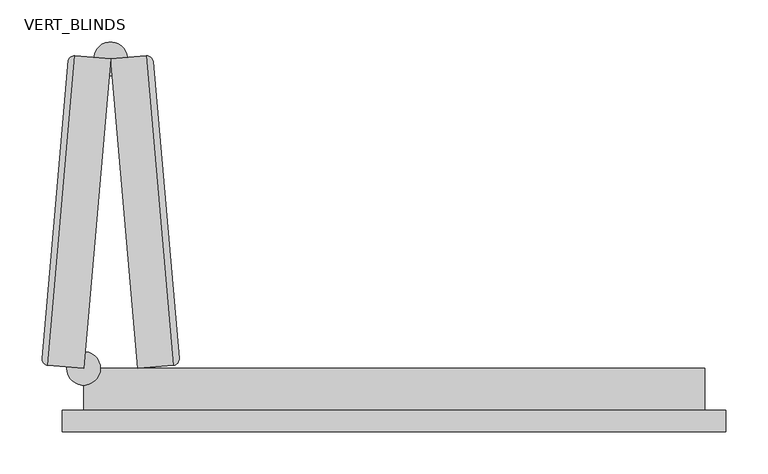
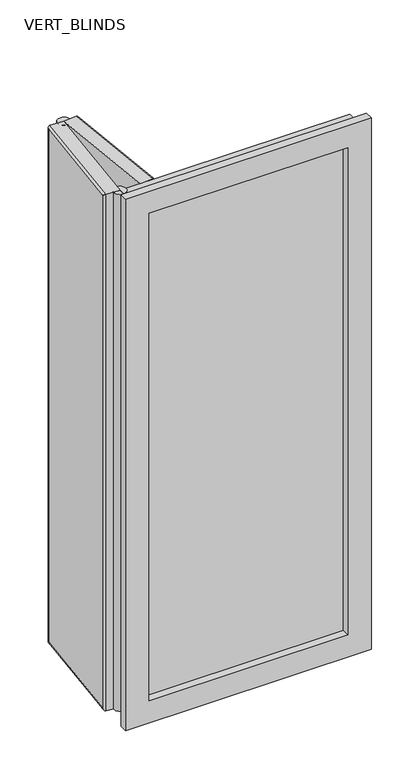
"""IFC4 building model written with IfcOpenShell, lengths in millimetres: plate geometry, CURTAIN PANEL VODA STYLE BIFOLDING : VERT_BLINDS."""

import ifcopenshell
import ifcopenshell.guid

model = None  # the IFC model being written
_history = None  # IfcOwnerHistory: only IFC2X3 demands one
_inside = {}  # id of a spatial element -> (the spatial element, [elements in it])
_under = {}  # id of a project, library or spatial element -> (it, [spatial elements below it])
_declared = {}  # id of a project -> (the project, [libraries it declares])
_typed = {}  # id of a type object -> (the type object, [elements of that type])
_made_of = {}  # id of a material, layer set ... -> (it, [elements and type objects made of it])


def new_model(schema):
    """Start an empty IFC model of exactly this schema.

    Asked for "IFC4X3", IfcOpenShell would pick the latest addendum, in which some entities
    have other attributes; the version numbers below select the first issue.
    IFC2X3 requires an IfcOwnerHistory on every rooted entity: one is made here for all.
    """
    global model, _history
    if schema == "IFC4X3":
        model = ifcopenshell.file(schema_version=(4, 3, 0, 0))
    else:
        model = ifcopenshell.file(schema=schema)
    _inside.clear()
    _under.clear()
    _declared.clear()
    _typed.clear()
    _made_of.clear()
    _history = None
    if model.schema == "IFC2X3":
        org = make("IfcOrganization", Name="unknown")
        user = make(
            "IfcPersonAndOrganization",
            ThePerson=make("IfcPerson", FamilyName="unknown"),
            TheOrganization=org,
        )
        app = make(
            "IfcApplication",
            ApplicationDeveloper=org,
            Version="unknown",
            ApplicationFullName="unknown",
            ApplicationIdentifier="unknown",
        )
        _history = make(
            "IfcOwnerHistory",
            OwningUser=user,
            OwningApplication=app,
            ChangeAction="ADDED",
            CreationDate=0,
        )
    return model


def make(cls, **values):
    """One entity of the class cls with the attributes given. An attribute that is None is left unset."""
    return model.create_entity(
        cls, **{name: value for name, value in values.items() if value is not None}
    )


def rooted(cls, **values):
    """An entity with a GlobalId (a new one), such as an element, a storey or a relation."""
    return make(cls, GlobalId=ifcopenshell.guid.new(), OwnerHistory=_history, **values)


def si_unit(unit_type, name, prefix=None):
    """IfcSIUnit, for example si_unit("LENGTHUNIT", "METRE", prefix="MILLI")."""
    return make("IfcSIUnit", UnitType=unit_type, Prefix=prefix, Name=name)


def assignment(units):
    """IfcUnitAssignment: the units of a project."""
    return None if units is None else make("IfcUnitAssignment", Units=units)


def point(xyz):
    """IfcCartesianPoint."""
    return None if xyz is None else make("IfcCartesianPoint", Coordinates=xyz)


def direction(xyz):
    """IfcDirection."""
    return None if xyz is None else make("IfcDirection", DirectionRatios=xyz)


def frame(location, z_axis=None, x_axis=None):
    """IfcAxis2Placement3D, a coordinate frame: its origin and axes. An axis left out is left unset."""
    return make(
        "IfcAxis2Placement3D",
        Location=point(location),
        Axis=direction(z_axis),
        RefDirection=direction(x_axis),
    )


def frame_2d(location, x_axis=None):
    """IfcAxis2Placement2D, a coordinate frame in the plane: its origin and x axis."""
    return make(
        "IfcAxis2Placement2D", Location=point(location), RefDirection=direction(x_axis)
    )


def origin():
    """The frame at (0, 0, 0) with its axes left unset."""
    return frame((0.0, 0.0, 0.0))


def place(relative_to, where):
    """IfcLocalPlacement: puts the frame where relative to a parent placement (None: the world)."""
    return make(
        "IfcLocalPlacement", PlacementRelTo=relative_to, RelativePlacement=where
    )


def context(
    kind, dimensions, precision=None, world=None, true_north=None, identifier=None
):
    """IfcGeometricRepresentationContext, for example the 3D "Model" context."""
    return make(
        "IfcGeometricRepresentationContext",
        ContextIdentifier=identifier,
        ContextType=kind,
        CoordinateSpaceDimension=dimensions,
        Precision=precision,
        WorldCoordinateSystem=world,
        TrueNorth=true_north,
    )


def project(units=None, contexts=None):
    """IfcProject with its units and contexts."""
    return rooted(
        "IfcProject",
        Name="project",
        RepresentationContexts=contexts,
        UnitsInContext=assignment(units),
    )


def spatial(cls, under=None, at=None, **own):
    """A site, building, storey or space (cls), placed at a placement, below another one or the project."""
    s = rooted(cls, ObjectPlacement=at, **own)
    if under is not None:
        _under.setdefault(under.id(), (under, []))[1].append(s)
    return s


def polyline(points):
    """IfcPolyline through the points."""
    return make("IfcPolyline", Points=[point(p) for p in points])


def circle_curve(where, radius):
    """IfcCircle in the frame where."""
    return make("IfcCircle", Position=where, Radius=radius)


def ellipse_curve(where, semi_axis1, semi_axis2):
    """IfcEllipse in the frame where."""
    return make(
        "IfcEllipse", Position=where, SemiAxis1=semi_axis1, SemiAxis2=semi_axis2
    )


def trimmed(basis, trim1, trim2, sense, master):
    """IfcTrimmedCurve: the piece of a basis curve between two trims."""
    return make(
        "IfcTrimmedCurve",
        BasisCurve=basis,
        Trim1=trim1,
        Trim2=trim2,
        SenseAgreement=sense,
        MasterRepresentation=master,
    )


def segment(curve, same_sense, transition):
    """IfcCompositeCurveSegment."""
    return make(
        "IfcCompositeCurveSegment",
        Transition=transition,
        SameSense=same_sense,
        ParentCurve=curve,
    )


def composite_curve(segments, self_intersect=None):
    """IfcCompositeCurve: segments joined end to end."""
    return make("IfcCompositeCurve", Segments=segments, SelfIntersect=self_intersect)


def outline(outer, holes=None, kind="AREA"):
    """IfcArbitraryClosedProfileDef: a profile drawn as a closed curve; with holes, ...WithVoids."""
    if holes is None:
        return make("IfcArbitraryClosedProfileDef", ProfileType=kind, OuterCurve=outer)
    return make(
        "IfcArbitraryProfileDefWithVoids",
        ProfileType=kind,
        OuterCurve=outer,
        InnerCurves=holes,
    )


def extrude(swept, where, along, depth):
    """IfcExtrudedAreaSolid: the profile swept, set in the frame where, extruded along a direction by depth."""
    return make(
        "IfcExtrudedAreaSolid",
        SweptArea=swept,
        Position=where,
        ExtrudedDirection=direction(along),
        Depth=depth,
    )


def faces_of(points, faces, orient=None, outer=None):
    """IfcFace entities. A face is a list of loops; a loop is a list of indices into points, from 0.

    orient and outer hold one flag for each loop. By default every Orientation is true, the
    first loop of a face is its IfcFaceOuterBound and the others are IfcFaceBound.
    """
    made = []
    for i, loops in enumerate(faces):
        bounds = []
        for j, loop in enumerate(loops):
            is_outer = j == 0 if outer is None else outer[i][j]
            bounds.append(
                make(
                    "IfcFaceOuterBound" if is_outer else "IfcFaceBound",
                    Bound=make("IfcPolyLoop", Polygon=[points[k] for k in loop]),
                    Orientation=True if orient is None else orient[i][j],
                )
            )
        made.append(make("IfcFace", Bounds=bounds))
    return made


def faceted_brep(points, faces, orient=None, outer=None, voids=None):
    """IfcFacetedBrep: a solid bounded by flat faces; with voids (closed shells), ...WithVoids."""
    shared = [point(p) for p in points]
    hull = make("IfcClosedShell", CfsFaces=faces_of(shared, faces, orient, outer))
    if voids is None:
        return make("IfcFacetedBrep", Outer=hull)
    return make(
        "IfcFacetedBrepWithVoids",
        Outer=hull,
        Voids=[
            make(cls, CfsFaces=faces_of(shared, fs, o, b)) for cls, fs, o, b in voids
        ],
    )


def shape(context_of_items, identifier, shape_type, items):
    """IfcShapeRepresentation: the items that make up one representation, for example the "Body"."""
    return make(
        "IfcShapeRepresentation",
        ContextOfItems=context_of_items,
        RepresentationIdentifier=identifier,
        RepresentationType=shape_type,
        Items=items,
    )


def source(mapping_origin, context_of_items, identifier, shape_type, items):
    """IfcRepresentationMap: a shape defined once, which mapped items show again and again."""
    return make(
        "IfcRepresentationMap",
        MappingOrigin=mapping_origin,
        MappedRepresentation=shape(context_of_items, identifier, shape_type, items),
    )


def transform(
    local_origin,
    x_axis=None,
    y_axis=None,
    z_axis=None,
    scale=None,
    scale2=None,
    scale3=None,
    uniform=True,
):
    """IfcCartesianTransformationOperator3D, or its non-uniform kind. x_axis, y_axis, z_axis: its Axis1, 2, 3."""
    if uniform:
        return make(
            "IfcCartesianTransformationOperator3D",
            Axis1=direction(x_axis),
            Axis2=direction(y_axis),
            LocalOrigin=point(local_origin),
            Scale=scale,
            Axis3=direction(z_axis),
        )
    return make(
        "IfcCartesianTransformationOperator3DnonUniform",
        Axis1=direction(x_axis),
        Axis2=direction(y_axis),
        LocalOrigin=point(local_origin),
        Scale=scale,
        Axis3=direction(z_axis),
        Scale2=scale2,
        Scale3=scale3,
    )


def mapped(mapping_source, mapping_target):
    """IfcMappedItem: shows the shape of a source again, moved by a transform."""
    return make(
        "IfcMappedItem", MappingSource=mapping_source, MappingTarget=mapping_target
    )


def made_of(thing, what):
    """Note that an element or type object is made of a material, layer set ...; save() writes the relation."""
    if what is not None:
        _made_of.setdefault(what.id(), (what, []))[1].append(thing)
    return thing


def element(
    cls,
    number,
    at=None,
    inside=None,
    cuts=None,
    type_object=None,
    material=None,
    context=None,
    identifier="Body",
    shape_type=None,
    held_by="IfcProductDefinitionShape",
    body=None,
    shapes=None,
    **own,
):
    """One element of the class cls, such as IfcWall. Its Tag is "e" and its number.

    at: its placement. inside: the storey or other place that contains it. cuts: it is an
    opening in that element (IfcRelVoidsElement). A single representation is given by context,
    identifier, shape_type and body (its items); several are given by shapes. held_by: the class
    of the entity that holds the representations. save() writes the other relations.
    """
    e = rooted(cls, Tag="e%d" % number, ObjectPlacement=at, **own)
    if body is not None:
        shapes = [shape(context, identifier, shape_type, body)]
    if shapes is not None:
        e.Representation = make(held_by, Representations=shapes)
    if inside is not None:
        _inside.setdefault(inside.id(), (inside, []))[1].append(e)
    if cuts is not None:
        rooted(
            "IfcRelVoidsElement", RelatingBuildingElement=cuts, RelatedOpeningElement=e
        )
    if type_object is not None:
        _typed.setdefault(type_object.id(), (type_object, []))[1].append(e)
    return made_of(e, material)


def aggregate(whole, parts):
    """IfcRelAggregates: a whole, such as a stair, and the parts it consists of."""
    return rooted("IfcRelAggregates", RelatingObject=whole, RelatedObjects=parts)


def save(model, path):
    """Write the relations noted so far, then the file.

    IfcRelAggregates (storeys below a building ...), IfcRelContainedInSpatialStructure (elements
    in a storey), IfcRelDefinesByType, IfcRelAssociatesMaterial and IfcRelDeclares: one each for
    every whole, place, type object, material and project.
    """
    for whole, parts in _under.values():
        aggregate(whole, parts)
    for where, things in _inside.values():
        rooted(
            "IfcRelContainedInSpatialStructure",
            RelatedElements=things,
            RelatingStructure=where,
        )
    for kind, things in _typed.values():
        rooted("IfcRelDefinesByType", RelatedObjects=things, RelatingType=kind)
    for what, things in _made_of.values():
        rooted("IfcRelAssociatesMaterial", RelatedObjects=things, RelatingMaterial=what)
    for by, libraries in _declared.values():
        rooted("IfcRelDeclares", RelatingContext=by, RelatedDefinitions=libraries)
    model.write(path)


def plane_surface(at):
    """IfcPlane: the flat surface through the origin of the frame at, square to its z axis."""
    return make("IfcPlane", Position=at)


def cylinder_surface(at, radius):
    """IfcCylindricalSurface: all points at the distance radius from the z axis of the frame at."""
    return make("IfcCylindricalSurface", Position=at, Radius=radius)


def advanced_brep(points, edges, surfaces, faces):
    """IfcAdvancedBrep: a solid bounded by faces that lie on surfaces and meet in shared edges.

    An edge is (start, end): straight between two places in points (the first is 0);
    or (start, end, curve); or (start, end, curve, False) where it runs against its curve.
    A face is (place in surfaces, loops), or (place, loops, False) where it looks against
    its surface's normal. A loop lists edges by number (the first is 1), with a minus sign
    where the edge is run from its end to its start. The first loop is the outer one.
    """
    corners = [point(p) for p in points]
    vertices = [make("IfcVertexPoint", VertexGeometry=c) for c in corners]
    made = []
    for start, end, *more in edges:
        made.append(
            make(
                "IfcEdgeCurve",
                EdgeStart=vertices[start],
                EdgeEnd=vertices[end],
                EdgeGeometry=more[0] if more else make("IfcPolyline", Points=[corners[start], corners[end]]),
                SameSense=more[1] if len(more) > 1 else True,
            )
        )
    hull = []
    for where, loops, *sense in faces:
        bounds = []
        for j, loop in enumerate(loops):
            ring = [make("IfcOrientedEdge", EdgeElement=made[abs(k) - 1], Orientation=k > 0) for k in loop]
            bounds.append(
                make(
                    "IfcFaceOuterBound" if j == 0 else "IfcFaceBound",
                    Bound=make("IfcEdgeLoop", EdgeList=ring),
                    Orientation=True,
                )
            )
        hull.append(make("IfcAdvancedFace", Bounds=bounds, FaceSurface=surfaces[where], SameSense=sense[0] if sense else True))
    return make("IfcAdvancedBrep", Outer=make("IfcClosedShell", CfsFaces=hull))


def vert_blinds_d529f47b(model_context):
    return source(origin(), model_context, "Body", "SolidModel", [
        advanced_brep(
        [(-368.5861554, 50.0, 1775.0), (-336.4617552, 417.1835738, 1775.0), (-378.8000299, 420.8876928, 1775.0), (-410.92443, 53.7041191, 1775.0), (-336.4617552, 417.1835738, 25.0), (-368.5861554, 50.0, 25.0), (-410.92443, 53.7041191, 25.0), (-378.8000299, 420.8876928, 25.0), (-417.7422222, 61.8292474, 32.5), (-417.7422222, 61.8292474, 1767.5), (-386.9251582, 414.0699007, 1767.5), (-386.9251582, 414.0699007, 32.5)],
        [
            (0, 1),
            (1, 2),
            (2, 3),
            (3, 0),
            (4, 5),
            (5, 6),
            (6, 7),
            (7, 4),
            (1, 4),
            (7, 2),
            (8, 9),
            (9, 10),
            (10, 11),
            (11, 8),
            (5, 0),
            (3, 6),
            (8, 6, ellipse_curve(frame((-410.270762, 61.1755793, 32.5), z_axis=(-0.06162841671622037, -0.7044160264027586, 0.7071067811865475), x_axis=(-0.061628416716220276, -0.7044160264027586, -0.7071067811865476)), 10.6066017, 7.5)),
            (3, 9, ellipse_curve(frame((-410.270762, 61.1755793, 1767.5), z_axis=(-0.0616284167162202, -0.7044160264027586, -0.7071067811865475), x_axis=(0.061628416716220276, 0.7044160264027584, -0.7071067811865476)), 10.6066017, 7.5)),
            (11, 7, ellipse_curve(frame((-379.453698, 413.4162326, 32.5), z_axis=(-0.06162841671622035, -0.7044160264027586, -0.7071067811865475), x_axis=(0.0616284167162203, 0.7044160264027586, -0.7071067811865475)), 10.6066017, 7.5)),
            (10, 2, ellipse_curve(frame((-379.453698, 413.4162326, 1767.5), z_axis=(0.06162841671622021, 0.7044160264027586, -0.7071067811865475), x_axis=(0.06162841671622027, 0.7044160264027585, 0.7071067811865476)), 10.6066017, 7.5)),
        ],
        [
            plane_surface(frame((-386.2714901, 421.5413609, 1775.0), z_axis=(0.0, 0.0, 1.0), x_axis=(-0.9961946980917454, 0.0871557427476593, 0.0))),
            plane_surface(frame((-386.2714901, 421.5413609, 25.0), z_axis=(0.0, 0.0, -1.0), x_axis=(0.9961946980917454, -0.0871557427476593, 0.0))),
            plane_surface(frame((-336.4617552, 417.1835738, 1775.0), z_axis=(0.0871557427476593, 0.9961946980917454, 0.0), x_axis=(0.0, 0.0, -1.0))),
            plane_surface(frame((-386.2714901, 421.5413609, 1775.0), z_axis=(-0.9961946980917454, 0.0871557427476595, 0.0), x_axis=(0.0, 0.0, -1.0))),
            plane_surface(frame((-418.3958903, 54.3577871, 1775.0), z_axis=(-0.08715574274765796, -0.9961946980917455, 0.0), x_axis=(0.0, 0.0, -1.0))),
            plane_surface(frame((-368.5861554, 50.0, 1775.0), z_axis=(0.9961946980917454, -0.08715574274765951, 0.0), x_axis=(0.0, 0.0, -1.0))),
            cylinder_surface(frame((-410.270762, 61.1755793, 1775.0), z_axis=(0.0, 0.0, -1.0), x_axis=(0.9961946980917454, -0.08715574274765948, 0.0)), 7.5),
            cylinder_surface(frame((-410.92443, 53.7041191, 32.5), z_axis=(0.08715574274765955, 0.9961946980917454, 0.0), x_axis=(0.9961946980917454, -0.08715574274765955, 0.0)), 7.5),
            cylinder_surface(frame((-379.453698, 413.4162326, 25.0), z_axis=(0.0, 0.0, 1.0), x_axis=(0.9961946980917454, -0.0871557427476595, 0.0)), 7.5),
            cylinder_surface(frame((-378.8000299, 420.8876928, 1767.5), z_axis=(-0.08715574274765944, -0.9961946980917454, 0.0), x_axis=(0.9961946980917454, -0.08715574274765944, 0.0)), 7.5),
        ],
        [
            (0, [[1, 2, 3, 4]]),
            (1, [[5, 6, 7, 8]]),
            (2, [[9, -8, 10, -2]]),
            (3, [[11, 12, 13, 14]]),
            (4, [[15, -4, 16, -6]]),
            (5, [[-1, -15, -5, -9]]),
            (6, [[17, -16, 18, -11]]),
            (7, [[-17, -14, 19, -7]]),
            (8, [[-19, -13, 20, -10]]),
            (9, [[-18, -3, -20, -12]]),
        ],
    ),
        advanced_brep(
        [(-336.4617552, 417.1835738, 1775.0), (-304.3373551, 50.0, 1775.0), (-261.9990804, 53.7041191, 1775.0), (-294.1234806, 420.8876928, 1775.0), (-304.3373551, 50.0, 25.0), (-336.4617552, 417.1835738, 25.0), (-294.1234806, 420.8876928, 25.0), (-261.9990804, 53.7041191, 25.0), (-285.9983523, 414.0699007, 32.5), (-285.9983523, 414.0699007, 1767.5), (-255.1812883, 61.8292474, 1767.5), (-255.1812883, 61.8292474, 32.5)],
        [
            (0, 1),
            (1, 2),
            (2, 3),
            (3, 0),
            (4, 5),
            (5, 6),
            (6, 7),
            (7, 4),
            (1, 4),
            (7, 2),
            (8, 9),
            (9, 10),
            (10, 11),
            (11, 8),
            (5, 0),
            (3, 6),
            (8, 6, ellipse_curve(frame((-293.4698125, 413.4162326, 32.5), z_axis=(-0.0616284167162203, 0.7044160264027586, 0.7071067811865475), x_axis=(-0.061628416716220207, 0.7044160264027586, -0.7071067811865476)), 10.6066017, 7.5)),
            (3, 9, ellipse_curve(frame((-293.4698125, 413.4162326, 1767.5), z_axis=(-0.06162841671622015, 0.7044160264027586, -0.7071067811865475), x_axis=(0.06162841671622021, -0.7044160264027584, -0.7071067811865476)), 10.6066017, 7.5)),
            (11, 7, ellipse_curve(frame((-262.6527485, 61.1755793, 32.5), z_axis=(-0.06162841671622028, 0.7044160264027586, -0.7071067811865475), x_axis=(0.06162841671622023, -0.7044160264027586, -0.7071067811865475)), 10.6066017, 7.5)),
            (10, 2, ellipse_curve(frame((-262.6527485, 61.1755793, 1767.5), z_axis=(0.06162841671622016, -0.7044160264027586, -0.7071067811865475), x_axis=(0.061628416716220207, -0.7044160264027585, 0.7071067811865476)), 10.6066017, 7.5)),
        ],
        [
            plane_surface(frame((-254.5276202, 54.3577871, 1775.0), z_axis=(0.0, 0.0, 1.0), x_axis=(0.9961946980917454, 0.08715574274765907, 0.0))),
            plane_surface(frame((-254.5276202, 54.3577871, 25.0), z_axis=(0.0, 0.0, -1.0), x_axis=(-0.9961946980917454, -0.08715574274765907, 0.0))),
            plane_surface(frame((-304.3373551, 50.0, 1775.0), z_axis=(0.08715574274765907, -0.9961946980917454, 0.0), x_axis=(0.0, 0.0, -1.0))),
            plane_surface(frame((-254.5276202, 54.3577871, 1775.0), z_axis=(0.9961946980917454, 0.08715574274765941, 0.0), x_axis=(0.0, 0.0, -1.0))),
            plane_surface(frame((-286.6520203, 421.5413609, 1775.0), z_axis=(-0.08715574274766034, 0.9961946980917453, 0.0), x_axis=(0.0, 0.0, -1.0))),
            plane_surface(frame((-336.4617552, 417.1835738, 1775.0), z_axis=(-0.9961946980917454, -0.08715574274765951, 0.0), x_axis=(0.0, 0.0, -1.0))),
            cylinder_surface(frame((-293.4698125, 413.4162326, 1775.0), z_axis=(0.0, 0.0, -1.0), x_axis=(-0.9961946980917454, -0.08715574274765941, 0.0)), 7.5),
            cylinder_surface(frame((-294.1234806, 420.8876928, 32.5), z_axis=(0.08715574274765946, -0.9961946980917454, 0.0), x_axis=(-0.9961946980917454, -0.08715574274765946, 0.0)), 7.5),
            cylinder_surface(frame((-262.6527485, 61.1755793, 25.0), z_axis=(0.0, 0.0, 1.0), x_axis=(-0.9961946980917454, -0.0871557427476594, 0.0)), 7.5),
            cylinder_surface(frame((-261.9990804, 53.7041191, 1767.5), z_axis=(-0.08715574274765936, 0.9961946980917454, 0.0), x_axis=(-0.9961946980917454, -0.08715574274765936, 0.0)), 7.5),
        ],
        [
            (0, [[1, 2, 3, 4]]),
            (1, [[5, 6, 7, 8]]),
            (2, [[9, -8, 10, -2]]),
            (3, [[11, 12, 13, 14]]),
            (4, [[15, -4, 16, -6]]),
            (5, [[-1, -15, -5, -9]]),
            (6, [[17, -16, 18, -11]]),
            (7, [[-17, -14, 19, -7]]),
            (8, [[-19, -13, 20, -10]]),
            (9, [[-18, -3, -20, -12]]),
        ],
    ),
        extrude(outline(composite_curve([segment(trimmed(circle_curve(frame_2d((-368.5861554, 50.0)), 20.0), [point((-388.5861554, 50.0))], [point((-348.5861554, 50.0))], False, "CARTESIAN"), True, "CONTINUOUS"), segment(trimmed(circle_curve(frame_2d((-368.5861554, 50.0)), 20.0), [point((-348.5861554, 50.0))], [point((-388.5861554, 50.0))], False, "CARTESIAN"), True, "CONTINUOUS")], self_intersect=False)), frame((0.0, 0.0, 25.0), z_axis=(0.0, 0.0, 1.0), x_axis=(1.0, 0.0, 0.0)), (0.0, 0.0, 1.0), 1750.0),
        extrude(outline(composite_curve([segment(trimmed(circle_curve(frame_2d((-336.4617552, 417.1835738)), 20.0), [point((-338.2048701, 397.2596798))], [point((-334.7186404, 437.1074677))], False, "CARTESIAN"), True, "CONTINUOUS"), segment(trimmed(circle_curve(frame_2d((-336.4617552, 417.1835738)), 20.0), [point((-334.7186404, 437.1074677))], [point((-338.2048701, 397.2596798))], False, "CARTESIAN"), True, "CONTINUOUS")], self_intersect=False)), frame((0.0, 0.0, 25.0), z_axis=(0.0, 0.0, 1.0), x_axis=(1.0, 0.0, 0.0)), (0.0, 0.0, 1.0), 1750.0),
        extrude(outline(polyline([(-318.5861554, 24.0), (318.5861554, 24.0), (318.5861554, 0.0), (-318.5861554, 0.0), (-318.5861554, 24.0)])), frame((0.0, 0.0, 75.0), z_axis=(0.0, 0.0, 1.0), x_axis=(1.0, 0.0, 0.0)), (0.0, 0.0, 1.0), 1650.0),
        faceted_brep([(-318.5861554, 50.0, 1725.0), (-318.5861554, -25.0, 1725.0), (-318.5861554, -25.0, 75.0), (-318.5861554, 50.0, 75.0), (-393.5861554, -25.0, 1800.0), (-393.5861554, 0.0, 1800.0), (-393.5861554, 0.0, 0.0), (-393.5861554, -25.0, 0.0), (-368.5861554, 0.0, 1775.0), (-368.5861554, 50.0, 1775.0), (-368.5861554, 50.0, 25.0), (-368.5861554, 0.0, 25.0), (318.5861554, -25.0, 75.0), (318.5861554, 50.0, 75.0), (393.5861554, 0.0, 0.0), (393.5861554, -25.0, 0.0), (368.5861554, 50.0, 25.0), (368.5861554, 0.0, 25.0), (318.5861554, -25.0, 1725.0), (318.5861554, 50.0, 1725.0), (393.5861554, 0.0, 1800.0), (393.5861554, -25.0, 1800.0), (368.5861554, 50.0, 1775.0), (368.5861554, 0.0, 1775.0)], [[[0, 1, 2, 3]], [[4, 5, 6, 7]], [[8, 9, 10, 11]], [[3, 2, 12, 13]], [[7, 6, 14, 15]], [[11, 10, 16, 17]], [[13, 12, 18, 19]], [[15, 14, 20, 21]], [[17, 16, 22, 23]], [[9, 22, 16, 10], [3, 13, 19, 0]], [[19, 18, 1, 0]], [[7, 15, 21, 4], [1, 18, 12, 2]], [[21, 20, 5, 4]], [[5, 20, 14, 6], [11, 17, 23, 8]], [[23, 22, 9, 8]]]),
    ])


if __name__ == "__main__":
    model = new_model("IFC4")
    model_context = context("Model", 3, world=origin())
    ifc_project = project(units=[si_unit("LENGTHUNIT", "METRE", prefix="MILLI")], contexts=[model_context])
    site = spatial("IfcSite", under=ifc_project)
    building = spatial("IfcBuilding", under=site)
    placement = place(None, origin())
    vert_blinds_shape = vert_blinds_d529f47b(model_context)
    element("IfcPlate", 1, ObjectType="CURTAIN PANEL VODA STYLE BIFOLDING : VERT_BLINDS", at=placement, inside=building, context=model_context, shape_type="MappedRepresentation", body=[
        mapped(vert_blinds_shape, transform((0.0, 0.0, 0.0), x_axis=(1.0, 0.0, 0.0), y_axis=(0.0, 1.0, 0.0), z_axis=(0.0, 0.0, 1.0))),
    ])
    save(model, "model.ifc")
